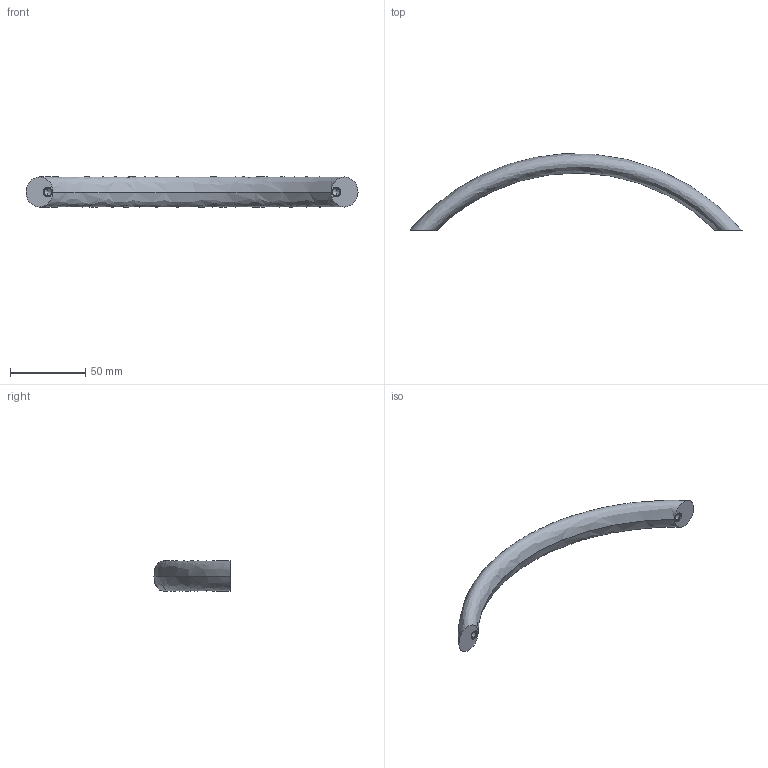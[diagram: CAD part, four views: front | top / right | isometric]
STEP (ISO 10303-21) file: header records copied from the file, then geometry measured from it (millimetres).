
FILE_DESCRIPTION (( 'STEP AP203' ), '1' );
FILE_NAME ('gn565-4_a_192-m6.step', '2010-11-02T08:21:12', ( '_' ), ( '_' ), 'SwSTEP 2.0', 'SolidWorks 2010', '' );
FILE_SCHEMA (( 'CONFIG_CONTROL_DESIGN' ));
Length unit declared in the file: millimetre
Products named in the file (1): gn565-4_a_192-m6
Bounding box: 221 x 50.69 x 20 mm (x, y, z)
Volume: 46830.8 mm3; surface area: 12869.7 mm2
Topology: 1 solids, 1 shells, 18 faces, 38 edges, 22 vertices
Faces by surface type: cylinder 8, cone 4, plane 4, bspline 2
Entity records: 1361 total; most frequent: CARTESIAN_POINT 919, DIRECTION 78, ORIENTED_EDGE 68, EDGE_CURVE 34, AXIS2_PLACEMENT_3D 33, VERTEX_POINT 22, EDGE_LOOP 22, ADVANCED_FACE 18
